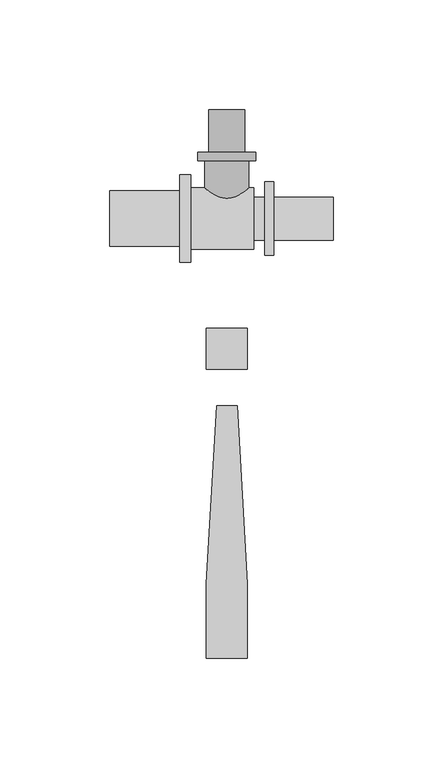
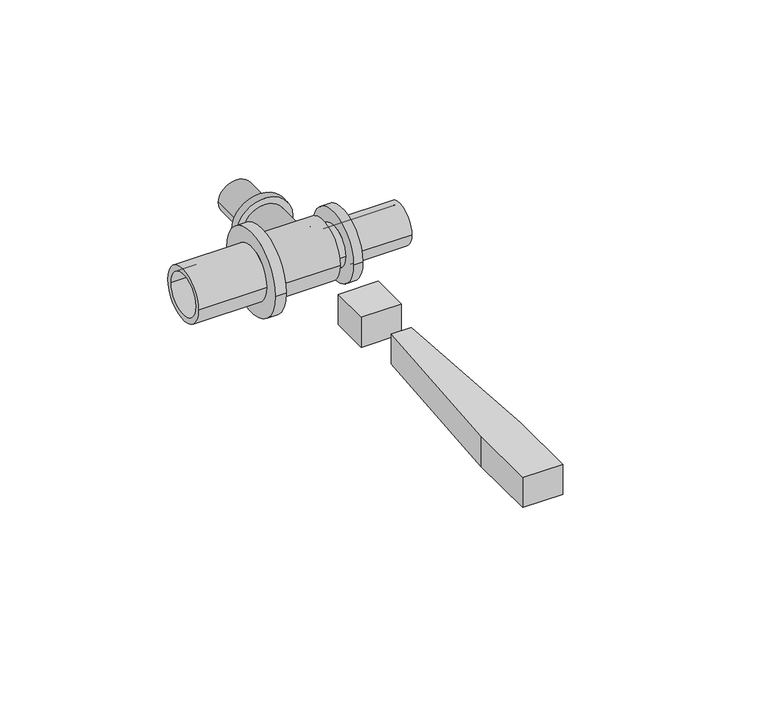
"""IFC4 building model written with IfcOpenShell, lengths in millimetres: pipe fitting geometry, RAUTITAN_T-piece_LX : RTI LX T DN."""

from ifc_helpers import new_model, si_unit, frame, origin, origin_with_axes, place, context, project, spatial, polyline, circle_curve, outline, extrude, source, transform, mapped, element, save
from ifc_brep_helpers import plane_surface, cylinder_surface, revolved_surface, advanced_brep


def pipe_fitting_1542a3e7(model_context):
    return source(origin(), model_context, "Body", "SolidModel", [
        advanced_brep(
        [(-10.05, 26.4, 0.0), (10.05, 26.4, 0.0), (10.05, 0.0, 0.0), (-10.05, 0.0, 0.0), (-13.25, 30.2, 0.0), (13.25, 30.2, 0.0), (13.25, 26.4, 0.0), (-13.25, 26.4, 0.0), (-8.25, 49.7, 0.0), (8.25, 49.7, 0.0), (8.25, 30.2, 0.0), (-8.25, 30.2, 0.0), (-6.25, 0.0, 0.0), (6.25, 0.0, 0.0), (6.25, 49.7, 0.0), (-6.25, 49.7, 0.0)],
        [
            (0, 1, circle_curve(frame((0.0, 26.4, 0.0), z_axis=(0.0, -1.0, 0.0), x_axis=(1.0, 0.0, 0.0)), 10.05)),
            (1, 2),
            (2, 3, circle_curve(frame((0.0, 0.0, 0.0), z_axis=(0.0, 1.0, 0.0), x_axis=(1.0, 0.0, 0.0)), 10.05)),
            (3, 0),
            (4, 5, circle_curve(frame((0.0, 30.2, 0.0), z_axis=(0.0, -1.0, 0.0), x_axis=(1.0, 0.0, 0.0)), 13.25)),
            (5, 6),
            (6, 7, circle_curve(frame((0.0, 26.4, 0.0), z_axis=(0.0, 1.0, 0.0), x_axis=(1.0, 0.0, 0.0)), 13.25)),
            (7, 4),
            (8, 9, circle_curve(frame((0.0, 49.7, 0.0), z_axis=(0.0, -1.0, 0.0), x_axis=(1.0, 0.0, 0.0)), 8.25)),
            (9, 10),
            (10, 11, circle_curve(frame((0.0, 30.2, 0.0), z_axis=(0.0, 1.0, 0.0), x_axis=(1.0, 0.0, 0.0)), 8.25)),
            (11, 8),
            (12, 13, circle_curve(frame((0.0, 0.0, 0.0), z_axis=(0.0, -1.0, 0.0), x_axis=(1.0, 0.0, 0.0)), 6.25)),
            (13, 14),
            (14, 15, circle_curve(frame((0.0, 49.7, 0.0), z_axis=(0.0, 1.0, 0.0), x_axis=(1.0, 0.0, 0.0)), 6.25)),
            (15, 12),
            (1, 0, circle_curve(frame((0.0, 26.4, 0.0), z_axis=(0.0, -1.0, 0.0), x_axis=(-1.0, 0.0, 0.0)), 10.05)),
            (3, 2, circle_curve(frame((0.0, 0.0, 0.0), z_axis=(0.0, 1.0, 0.0), x_axis=(-1.0, 0.0, 0.0)), 10.05)),
            (6, 7, circle_curve(frame((0.0, 26.4, 0.0), z_axis=(0.0, -1.0, 0.0), x_axis=(-1.0, 0.0, 0.0)), 13.25)),
            (5, 4, circle_curve(frame((0.0, 30.2, 0.0), z_axis=(0.0, -1.0, 0.0), x_axis=(-1.0, 0.0, 0.0)), 13.25)),
            (10, 11, circle_curve(frame((0.0, 30.2, 0.0), z_axis=(0.0, -1.0, 0.0), x_axis=(-1.0, 0.0, 0.0)), 8.25)),
            (9, 8, circle_curve(frame((0.0, 49.7, 0.0), z_axis=(0.0, -1.0, 0.0), x_axis=(-1.0, 0.0, 0.0)), 8.25)),
            (14, 15, circle_curve(frame((0.0, 49.7, 0.0), z_axis=(0.0, -1.0, 0.0), x_axis=(-1.0, 0.0, 0.0)), 6.25)),
            (13, 12, circle_curve(frame((0.0, 0.0, 0.0), z_axis=(0.0, -1.0, 0.0), x_axis=(-1.0, 0.0, 0.0)), 6.25)),
        ],
        [
            cylinder_surface(frame((0.0, 0.0, 0.0), z_axis=(0.0, 1.0, 0.0), x_axis=(1.0, 0.0, 0.0)), 10.05),
            cylinder_surface(frame((0.0, 0.0, 0.0), z_axis=(0.0, 1.0, 0.0), x_axis=(1.0, 0.0, 0.0)), 13.25),
            cylinder_surface(frame((0.0, 0.0, 0.0), z_axis=(0.0, 1.0, 0.0), x_axis=(1.0, 0.0, 0.0)), 8.25),
            revolved_surface(polyline([(6.25, 49.7, 0.0), (6.25, 0.0, 0.0)]), (0.0, 0.0, 0.0), (0.0, 1.0, 0.0)),
            cylinder_surface(frame((0.0, 0.0, 0.0), z_axis=(0.0, 1.0, 0.0), x_axis=(-1.0, 0.0, 0.0)), 10.05),
            plane_surface(frame((0.0, 26.4, 0.0), z_axis=(0.0, -1.0, 0.0), x_axis=(-1.0, 0.0, 0.0))),
            cylinder_surface(frame((0.0, 0.0, 0.0), z_axis=(0.0, 1.0, 0.0), x_axis=(-1.0, 0.0, 0.0)), 13.25),
            plane_surface(frame((0.0, 30.2, 0.0), z_axis=(0.0, 1.0, 0.0), x_axis=(-1.0, 0.0, 0.0))),
            cylinder_surface(frame((0.0, 0.0, 0.0), z_axis=(0.0, 1.0, 0.0), x_axis=(-1.0, 0.0, 0.0)), 8.25),
            plane_surface(frame((0.0, 49.7, 0.0), z_axis=(0.0, 1.0, 0.0), x_axis=(-1.0, 0.0, 0.0))),
            revolved_surface(polyline([(-6.25, 49.7, 0.0), (-6.25, 0.0, 0.0)]), (0.0, 0.0, 0.0), (0.0, 1.0, 0.0)),
            plane_surface(frame((0.0, 0.0, 0.0), z_axis=(0.0, -1.0, 0.0), x_axis=(-1.0, 0.0, 0.0))),
        ],
        [
            (0, [[1, 2, 3, 4]]),
            (1, [[5, 6, 7, 8]]),
            (2, [[9, 10, 11, 12]]),
            (3, [[13, 14, 15, 16]]),
            (4, [[17, -4, 18, -2]]),
            (5, [[19, -7], [-17, -1]]),
            (6, [[20, -8, -19, -6]]),
            (7, [[-20, -5], [21, -11]]),
            (8, [[22, -12, -21, -10]]),
            (9, [[-22, -9], [23, -15]]),
            (10, [[24, -16, -23, -14]]),
            (11, [[-18, -3], [-24, -13]]),
        ],
    ),
        advanced_brep(
        [(-53.5, 10.0, 0.0), (-53.5, -10.0, 0.0), (10.05, -10.0, 0.0), (10.05, 10.0, 0.0), (12.35, 14.0, 0.0), (12.35, -14.0, 0.0), (-16.5, -14.0, 0.0), (-16.5, 14.0, 0.0), (-16.5, 20.0, 0.0), (-16.5, -20.0, 0.0), (-21.5, -20.0, 0.0), (-21.5, 20.0, 0.0), (-21.5, 12.7, 0.0), (-21.5, -12.7, 0.0), (-53.5, -12.7, 0.0), (-53.5, 12.7, 0.0), (10.05, 7.5, 0.0), (10.05, -7.5, 0.0), (48.5, -7.5, 0.0), (48.5, 7.5, 0.0), (48.5, 9.8, 0.0), (48.5, -9.8, 0.0), (21.5, -9.8, 0.0), (21.5, 9.8, 0.0), (21.5, 16.7, 0.0), (21.5, -16.7, 0.0), (17.3, -16.7, 0.0), (17.3, 16.7, 0.0), (17.3, 9.8, 0.0), (17.3, -9.8, 0.0), (12.35, -9.8, 0.0), (12.35, 9.8, 0.0)],
        [
            (0, 1, circle_curve(frame((-53.5, 0.0, 0.0), z_axis=(-1.0, 0.0, 0.0), x_axis=(0.0, -1.0, 0.0)), 10.0)),
            (1, 2),
            (2, 3, circle_curve(frame((10.05, 0.0, 0.0), z_axis=(1.0, 0.0, 0.0), x_axis=(0.0, -1.0, 0.0)), 10.0)),
            (3, 0),
            (4, 5, circle_curve(frame((12.35, 0.0, 0.0), z_axis=(-1.0, 0.0, 0.0), x_axis=(0.0, -1.0, 0.0)), 14.0)),
            (5, 6),
            (6, 7, circle_curve(frame((-16.5, 0.0, 0.0), z_axis=(1.0, 0.0, 0.0), x_axis=(0.0, -1.0, 0.0)), 14.0)),
            (7, 4),
            (1, 0, circle_curve(frame((-53.5, 0.0, 0.0), z_axis=(-1.0, 0.0, 0.0), x_axis=(0.0, 1.0, 0.0)), 10.0)),
            (3, 2, circle_curve(frame((10.05, 0.0, 0.0), z_axis=(1.0, 0.0, 0.0), x_axis=(0.0, 1.0, 0.0)), 10.0)),
            (5, 4, circle_curve(frame((12.35, 0.0, 0.0), z_axis=(-1.0, 0.0, 0.0), x_axis=(0.0, 1.0, 0.0)), 14.0)),
            (7, 6, circle_curve(frame((-16.5, 0.0, 0.0), z_axis=(1.0, 0.0, 0.0), x_axis=(0.0, 1.0, 0.0)), 14.0)),
            (8, 9, circle_curve(frame((-16.5, 0.0, 0.0), z_axis=(-1.0, 0.0, 0.0), x_axis=(0.0, -1.0, 0.0)), 20.0)),
            (9, 10),
            (10, 11, circle_curve(frame((-21.5, 0.0, 0.0), z_axis=(1.0, 0.0, 0.0), x_axis=(0.0, -1.0, 0.0)), 20.0)),
            (11, 8),
            (12, 13, circle_curve(frame((-21.5, 0.0, 0.0), z_axis=(-1.0, 0.0, 0.0), x_axis=(0.0, -1.0, 0.0)), 12.7)),
            (13, 14),
            (14, 15, circle_curve(frame((-53.5, 0.0, 0.0), z_axis=(1.0, 0.0, 0.0), x_axis=(0.0, -1.0, 0.0)), 12.7)),
            (15, 12),
            (8, 9, circle_curve(frame((-16.5, 0.0, 0.0), z_axis=(1.0, 0.0, 0.0), x_axis=(0.0, 1.0, 0.0)), 20.0)),
            (11, 10, circle_curve(frame((-21.5, 0.0, 0.0), z_axis=(1.0, 0.0, 0.0), x_axis=(0.0, 1.0, 0.0)), 20.0)),
            (12, 13, circle_curve(frame((-21.5, 0.0, 0.0), z_axis=(1.0, 0.0, 0.0), x_axis=(0.0, 1.0, 0.0)), 12.7)),
            (15, 14, circle_curve(frame((-53.5, 0.0, 0.0), z_axis=(1.0, 0.0, 0.0), x_axis=(0.0, 1.0, 0.0)), 12.7)),
            (16, 17, circle_curve(frame((10.05, 0.0, 0.0), z_axis=(-1.0, 0.0, 0.0), x_axis=(0.0, -1.0, 0.0)), 7.5)),
            (17, 18),
            (18, 19, circle_curve(frame((48.5, 0.0, 0.0), z_axis=(1.0, 0.0, 0.0), x_axis=(0.0, -1.0, 0.0)), 7.5)),
            (19, 16),
            (20, 21, circle_curve(frame((48.5, 0.0, 0.0), z_axis=(-1.0, 0.0, 0.0), x_axis=(0.0, -1.0, 0.0)), 9.8)),
            (21, 22),
            (22, 23, circle_curve(frame((21.5, 0.0, 0.0), z_axis=(1.0, 0.0, 0.0), x_axis=(0.0, -1.0, 0.0)), 9.8)),
            (23, 20),
            (24, 25, circle_curve(frame((21.5, 0.0, 0.0), z_axis=(-1.0, 0.0, 0.0), x_axis=(0.0, -1.0, 0.0)), 16.7)),
            (25, 26),
            (26, 27, circle_curve(frame((17.3, 0.0, 0.0), z_axis=(1.0, 0.0, 0.0), x_axis=(0.0, -1.0, 0.0)), 16.7)),
            (27, 24),
            (28, 29, circle_curve(frame((17.3, 0.0, 0.0), z_axis=(-1.0, 0.0, 0.0), x_axis=(0.0, -1.0, 0.0)), 9.8)),
            (29, 30),
            (30, 31, circle_curve(frame((12.35, 0.0, 0.0), z_axis=(1.0, 0.0, 0.0), x_axis=(0.0, -1.0, 0.0)), 9.8)),
            (31, 28),
            (16, 17, circle_curve(frame((10.05, 0.0, 0.0), z_axis=(1.0, 0.0, 0.0), x_axis=(0.0, 1.0, 0.0)), 7.5)),
            (19, 18, circle_curve(frame((48.5, 0.0, 0.0), z_axis=(1.0, 0.0, 0.0), x_axis=(0.0, 1.0, 0.0)), 7.5)),
            (20, 21, circle_curve(frame((48.5, 0.0, 0.0), z_axis=(1.0, 0.0, 0.0), x_axis=(0.0, 1.0, 0.0)), 9.8)),
            (23, 22, circle_curve(frame((21.5, 0.0, 0.0), z_axis=(1.0, 0.0, 0.0), x_axis=(0.0, 1.0, 0.0)), 9.8)),
            (24, 25, circle_curve(frame((21.5, 0.0, 0.0), z_axis=(1.0, 0.0, 0.0), x_axis=(0.0, 1.0, 0.0)), 16.7)),
            (27, 26, circle_curve(frame((17.3, 0.0, 0.0), z_axis=(1.0, 0.0, 0.0), x_axis=(0.0, 1.0, 0.0)), 16.7)),
            (28, 29, circle_curve(frame((17.3, 0.0, 0.0), z_axis=(1.0, 0.0, 0.0), x_axis=(0.0, 1.0, 0.0)), 9.8)),
            (31, 30, circle_curve(frame((12.35, 0.0, 0.0), z_axis=(1.0, 0.0, 0.0), x_axis=(0.0, 1.0, 0.0)), 9.8)),
        ],
        [
            revolved_surface(polyline([(10.05, -10.0, 0.0), (-53.5, -10.0, 0.0)]), (0.0, 0.0, 0.0), (1.0, 0.0, 0.0)),
            cylinder_surface(frame((0.0, 0.0, 0.0), z_axis=(1.0, 0.0, 0.0), x_axis=(0.0, -1.0, 0.0)), 14.0),
            revolved_surface(polyline([(10.05, 10.0, 0.0), (-53.5, 10.0, 0.0)]), (0.0, 0.0, 0.0), (1.0, 0.0, 0.0)),
            cylinder_surface(frame((0.0, 0.0, 0.0), z_axis=(1.0, 0.0, 0.0), x_axis=(0.0, 1.0, 0.0)), 14.0),
            cylinder_surface(frame((0.0, 0.0, 0.0), z_axis=(1.0, 0.0, 0.0), x_axis=(0.0, -1.0, 0.0)), 20.0),
            cylinder_surface(frame((0.0, 0.0, 0.0), z_axis=(1.0, 0.0, 0.0), x_axis=(0.0, -1.0, 0.0)), 12.7),
            plane_surface(frame((-16.5, 0.0, 0.0), z_axis=(1.0, 0.0, 0.0), x_axis=(0.0, 1.0, 0.0))),
            cylinder_surface(frame((0.0, 0.0, 0.0), z_axis=(1.0, 0.0, 0.0), x_axis=(0.0, 1.0, 0.0)), 20.0),
            plane_surface(frame((-21.5, 0.0, 0.0), z_axis=(-1.0, 0.0, 0.0), x_axis=(0.0, 1.0, 0.0))),
            cylinder_surface(frame((0.0, 0.0, 0.0), z_axis=(1.0, 0.0, 0.0), x_axis=(0.0, 1.0, 0.0)), 12.7),
            plane_surface(frame((-53.5, 0.0, 0.0), z_axis=(-1.0, 0.0, 0.0), x_axis=(0.0, 1.0, 0.0))),
            revolved_surface(polyline([(48.5, -7.5, 0.0), (10.05, -7.5, 0.0)]), (0.0, 0.0, 0.0), (1.0, 0.0, 0.0)),
            cylinder_surface(frame((0.0, 0.0, 0.0), z_axis=(1.0, 0.0, 0.0), x_axis=(0.0, -1.0, 0.0)), 9.8),
            cylinder_surface(frame((0.0, 0.0, 0.0), z_axis=(1.0, 0.0, 0.0), x_axis=(0.0, -1.0, 0.0)), 16.7),
            plane_surface(frame((10.05, 0.0, 0.0), z_axis=(-1.0, 0.0, 0.0), x_axis=(0.0, 1.0, 0.0))),
            revolved_surface(polyline([(48.5, 7.5, 0.0), (10.05, 7.5, 0.0)]), (0.0, 0.0, 0.0), (1.0, 0.0, 0.0)),
            plane_surface(frame((48.5, 0.0, 0.0), z_axis=(1.0, 0.0, 0.0), x_axis=(0.0, 1.0, 0.0))),
            cylinder_surface(frame((0.0, 0.0, 0.0), z_axis=(1.0, 0.0, 0.0), x_axis=(0.0, 1.0, 0.0)), 9.8),
            plane_surface(frame((21.5, 0.0, 0.0), z_axis=(1.0, 0.0, 0.0), x_axis=(0.0, 1.0, 0.0))),
            cylinder_surface(frame((0.0, 0.0, 0.0), z_axis=(1.0, 0.0, 0.0), x_axis=(0.0, 1.0, 0.0)), 16.7),
            plane_surface(frame((17.3, 0.0, 0.0), z_axis=(-1.0, 0.0, 0.0), x_axis=(0.0, 1.0, 0.0))),
            plane_surface(frame((12.35, 0.0, 0.0), z_axis=(1.0, 0.0, 0.0), x_axis=(0.0, 1.0, 0.0))),
        ],
        [
            (0, [[1, 2, 3, 4]]),
            (1, [[5, 6, 7, 8]]),
            (2, [[9, -4, 10, -2]]),
            (3, [[11, -8, 12, -6]]),
            (4, [[13, 14, 15, 16]]),
            (5, [[17, 18, 19, 20]]),
            (6, [[21, -13], [-12, -7]]),
            (7, [[-21, -16, 22, -14]]),
            (8, [[-22, -15], [23, -17]]),
            (9, [[-23, -20, 24, -18]]),
            (10, [[-24, -19], [-9, -1]]),
            (11, [[25, 26, 27, 28]]),
            (12, [[29, 30, 31, 32]]),
            (13, [[33, 34, 35, 36]]),
            (12, [[37, 38, 39, 40]]),
            (14, [[-10, -3], [41, -25]]),
            (15, [[-41, -28, 42, -26]]),
            (16, [[43, -29], [-42, -27]]),
            (17, [[-43, -32, 44, -30]]),
            (18, [[45, -33], [-44, -31]]),
            (19, [[-45, -36, 46, -34]]),
            (20, [[-46, -35], [47, -37]]),
            (17, [[-47, -40, 48, -38]]),
            (21, [[-11, -5], [-48, -39]]),
        ],
    ),
        extrude(outline(polyline([(4.7088895, -85.3166715), (9.4177791, -166.6553807), (9.4177791, -200.6844652), (-9.4177791, -200.6844652), (-9.4177791, -166.6553807), (-4.7088895, -85.3166715), (4.7088895, -85.3166715)])), origin_with_axes(), (0.0, 0.0, 1.0), 15.0),
        extrude(outline(polyline([(9.4177791, -50.0), (9.4177791, -68.8355582), (-9.4177791, -68.8355582), (-9.4177791, -50.0), (9.4177791, -50.0)])), origin_with_axes(), (0.0, 0.0, 1.0), 15.0),
    ])


if __name__ == "__main__":
    model = new_model("IFC4")
    model_context = context("Model", 3, world=origin())
    ifc_project = project(units=[si_unit("LENGTHUNIT", "METRE", prefix="MILLI")], contexts=[model_context])
    site = spatial("IfcSite", under=ifc_project)
    building = spatial("IfcBuilding", under=site)
    placement = place(None, origin())
    pipe_fitting_shape = pipe_fitting_1542a3e7(model_context)
    element("IfcPipeFitting", 1, ObjectType="RAUTITAN_T-piece_LX : RTI LX T DN", at=placement, inside=building, context=model_context, shape_type="MappedRepresentation", body=[
        mapped(pipe_fitting_shape, transform((0.0, 0.0, 0.0), x_axis=(1.0, 0.0, 0.0), y_axis=(0.0, 1.0, 0.0), z_axis=(0.0, 0.0, 1.0))),
    ])
    save(model, "model.ifc")
